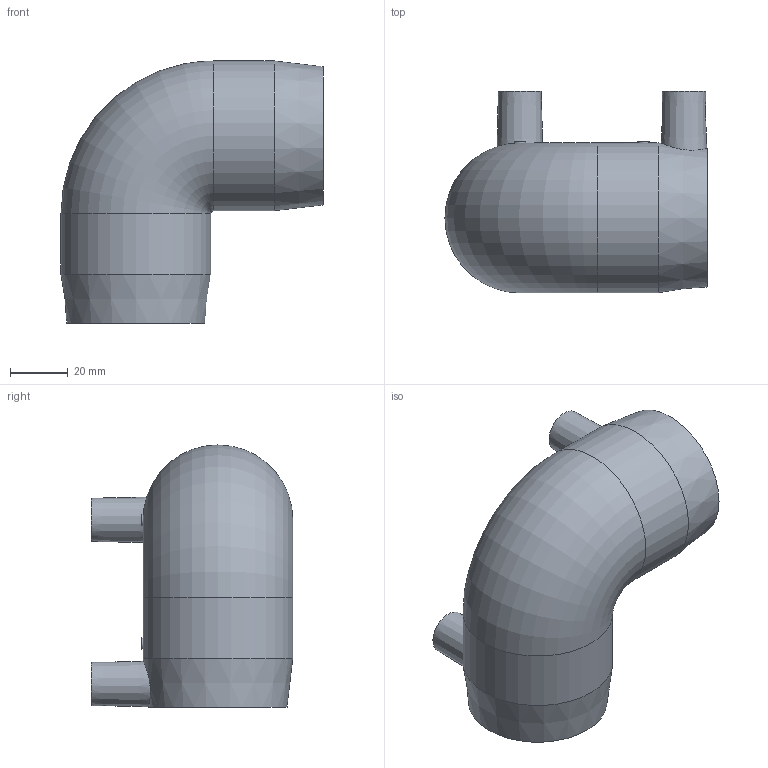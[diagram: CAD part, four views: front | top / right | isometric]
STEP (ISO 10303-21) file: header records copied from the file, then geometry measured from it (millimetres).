
FILE_DESCRIPTION(/* description */ ('Unknown'),/* implementation_level */ '2;1');
FILE_NAME(/* name */ 'GE9P040C',/* time_stamp */ '2020-11-24T12:10:03+01:00',/* author */ ('Unknown'),/* organization */ ('Unknown'),/* preprocessor_version */ 'ST-DEVELOPER v16.7',/* originating_system */ 'Solid Edge',/* authorisation */ 'Unknown');
FILE_SCHEMA (('AUTOMOTIVE_DESIGN {1 0 10303 214 3 1 1}'));
Length unit declared in the file: millimetre
Products named in the file (1): GE9P040C
Bounding box: 91 x 70 x 91 mm (x, y, z)
Volume: 110115.5 mm3; surface area: 38535.5 mm2
Topology: 1 solids, 1 shells, 30 faces, 53 edges, 35 vertices
Faces by surface type: cylinder 12, plane 12, cone 4, torus 2
Full cylindrical faces by diameter (mm): 4 x4, 10 x2, 40 x2, 52 x2
Entity records: 752 total; most frequent: CARTESIAN_POINT 204, DIRECTION 112, ORIENTED_EDGE 70, EDGE_LOOP 57, FACE_BOUND 57, AXIS2_PLACEMENT_3D 56, EDGE_CURVE 35, VERTEX_POINT 32
